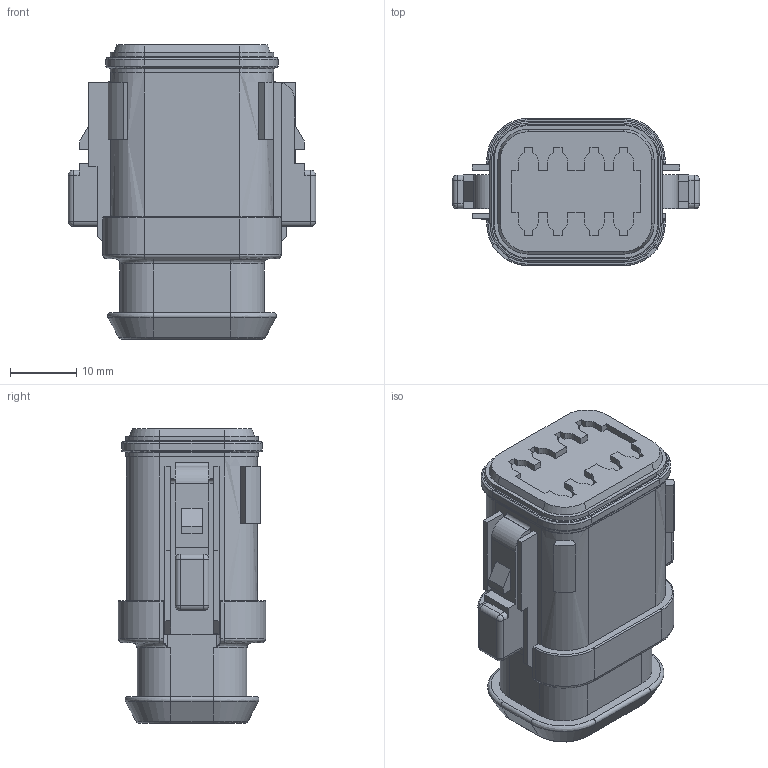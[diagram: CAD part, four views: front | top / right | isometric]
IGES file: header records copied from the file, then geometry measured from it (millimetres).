
Start section:  PTC IGES file: c-dt06-08sa-ce13-99-3d.igs
Global section: file name: c-dt06-08sa-ce13-99-3d.igs; native system: Pro/ENGINEER by Parametric Technology Corporation; preprocessor: 2011490; author: workeradm; organization: Unknown; units: millimetre
Bounding box: 37.21 x 22.15 x 44.25 mm (x, y, z)
Surface area: 7703.4 mm2 (no closed solid volume)
Topology: 0 solids, 0 shells, 612 faces, 3162 edges, 3162 vertices
Faces by surface type: bspline 344, revolution 268
